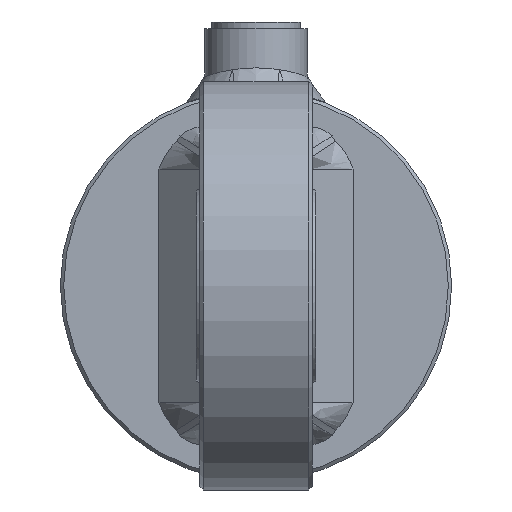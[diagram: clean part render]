
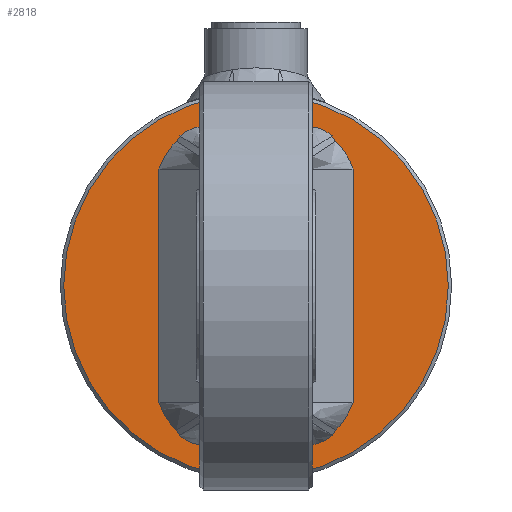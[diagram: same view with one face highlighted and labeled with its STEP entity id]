
A CAD part, left-side view. The second image highlights one B-rep face of the part: STEP entity #2818.
In plain terms, the highlighted planar face has unit normal (-1, 0, 0).
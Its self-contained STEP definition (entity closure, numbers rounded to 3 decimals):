
#2818 = ADVANCED_FACE( '', ( #9571 ), #9572, .T. );
#9571 = FACE_OUTER_BOUND( '', #11473, .T. );
#9572 = PLANE( '', #11474 );
#11473 = EDGE_LOOP( '', ( #12444 ) );
#11474 = AXIS2_PLACEMENT_3D( '', #12445, #12446, #12447 );
#12444 = ORIENTED_EDGE( '', *, *, #13825, .T. );
#12445 = CARTESIAN_POINT( '', ( -15., 0., 0. ) );
#12446 = DIRECTION( '', ( -1., 0., 0. ) );
#12447 = DIRECTION( '', ( 0., -1., 0. ) );
#13825 = EDGE_CURVE( '', #17778, #17778, #17779, .T. );
#17778 = VERTEX_POINT( '', #18349 );
#17779 = CIRCLE( '', #18350, 56.5 );
#18349 = CARTESIAN_POINT( '', ( -15., -56.5, 0. ) );
#18350 = AXIS2_PLACEMENT_3D( '', #18687, #18688, #18689 );
#18687 = CARTESIAN_POINT( '', ( -15., 0., 0. ) );
#18688 = DIRECTION( '', ( -1., 0., 0. ) );
#18689 = DIRECTION( '', ( 0., -1., 0. ) );
